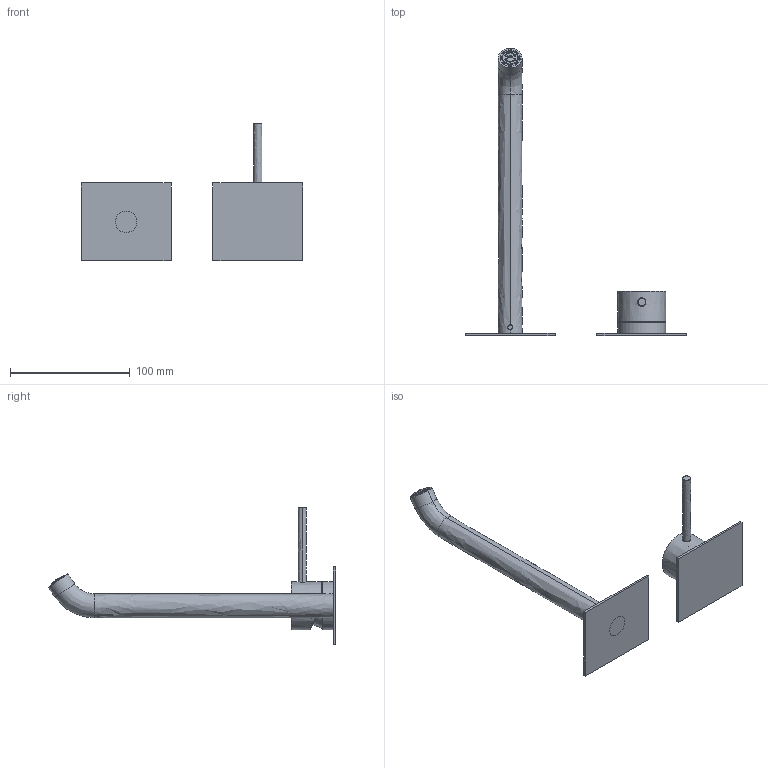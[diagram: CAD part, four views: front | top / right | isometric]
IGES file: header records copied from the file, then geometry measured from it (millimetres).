
Start section:  PTC IGES file: 69547a.igs
Global section: file name: 69547a.igs; native system: Creo Parametric by PTC Inc.; preprocessor: 2022014; author: carloff; organization: Unknown; date: 20251119.104143; units: millimetre
Bounding box: 185 x 240.19 x 114.9 mm (x, y, z)
Surface area: 61173.1 mm2 (no closed solid volume)
Topology: 0 solids, 0 shells, 1690 faces, 10016 edges, 10010 vertices
Faces by surface type: bspline 1419, revolution 268, extrusion 3
